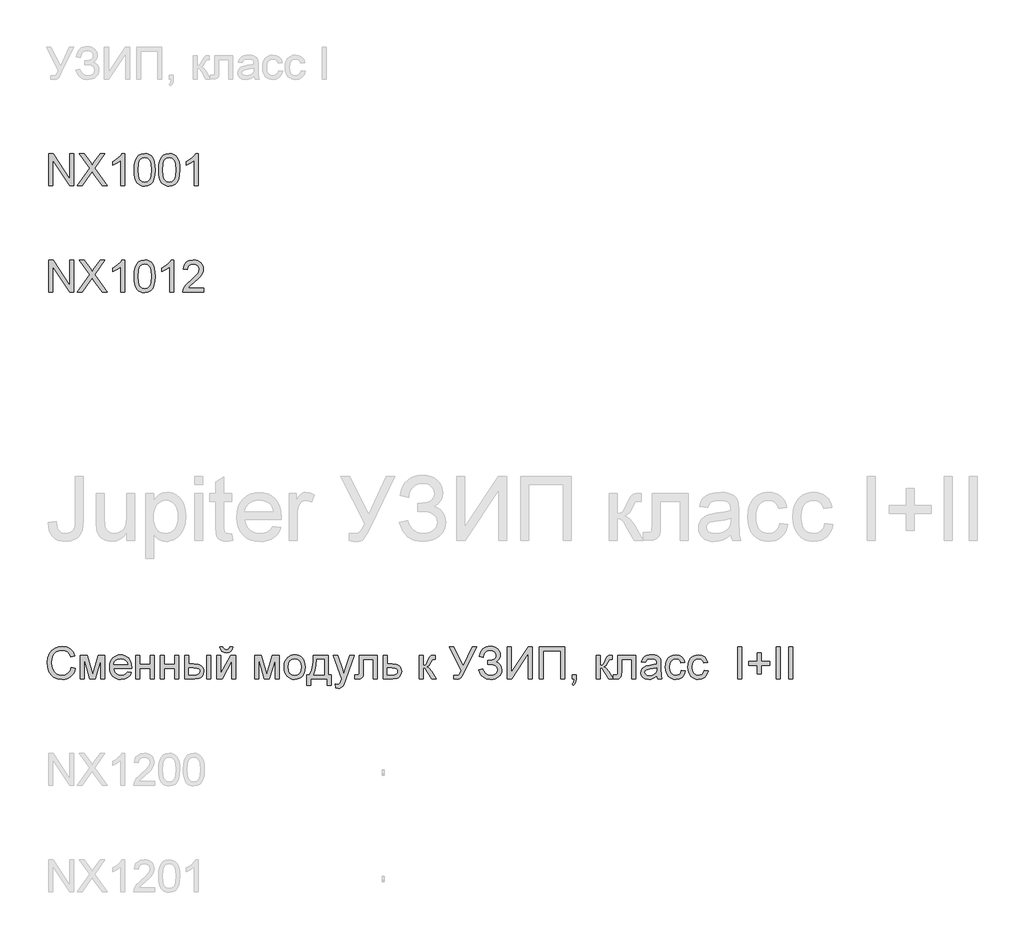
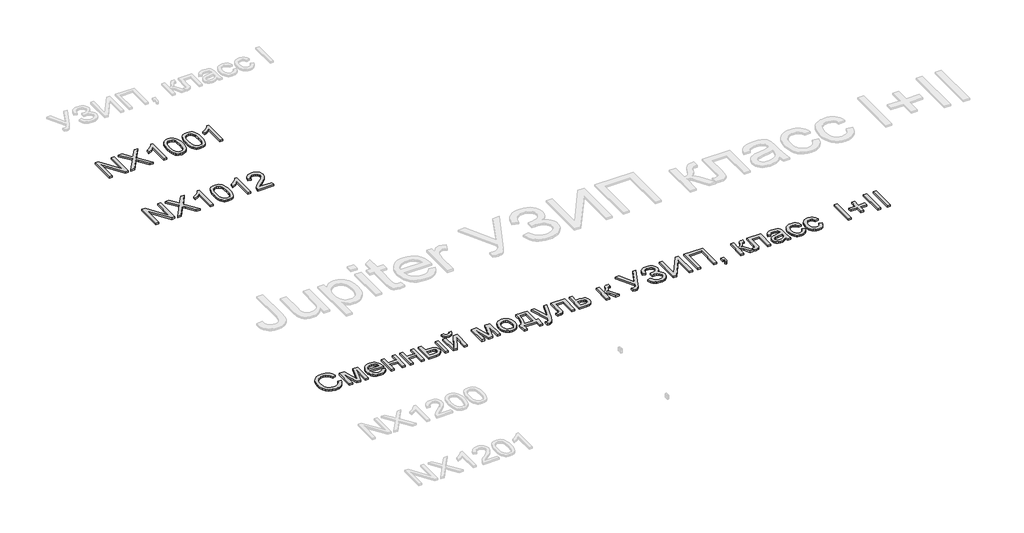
# One storey, part 31 of 124: 3 proxies.
"""IFC4 building model written with IfcOpenShell, lengths in millimetres."""

from ifc_helpers import new_model, si_unit, origin, origin_with_axes, place, context, project, spatial, polyline, outline, extrude, element, save

model = new_model("IFC4")

# Units and contexts
model_context = context("Model", 3, world=origin())
ifc_project = project(units=[si_unit("LENGTHUNIT", "METRE", prefix="MILLI")], contexts=[model_context])

# Site, building, storey
site = spatial("IfcSite", under=ifc_project)
building = spatial("IfcBuilding", under=site)
storey = spatial("IfcBuildingStorey", under=building, Name="Этаж 01", Elevation=0.0)

# Proxies
placement = place(None, origin())
element("IfcBuildingElementProxy", 1, Name="300", ObjectType="300", at=placement, inside=storey, context=model_context, shape_type="SweptSolid", body=[
    extrude(outline(polyline([(49499.8220677, -96548.8731539), (49499.8220677, -96247.5042234), (49540.1419344, -96247.5042234), (49697.5954283, -96486.2596383), (49697.5954283, -96247.5042234), (49735.2665446, -96247.5042234), (49735.2665446, -96548.8731539), (49694.9466779, -96548.8731539), (49537.493184, -96310.0441626), (49537.493184, -96548.8731539), (49499.8220677, -96548.8731539)])), origin_with_axes(), (0.0, 0.0, 1.0), 20.0),
    extrude(outline(polyline([(49768.2287714, -96548.8731539), (49884.4059055, -96384.6506312), (49787.0643295, -96247.5042234), (49832.2402385, -96247.5042234), (49887.0546558, -96324.685866), (49905.522332, -96354.7786132), (49927.1537933, -96324.1708312), (49981.3795994, -96247.5042234), (50027.217696, -96247.5042234), (49929.8761201, -96385.0920896), (50046.0532541, -96548.8731539), (50000.8773451, -96548.8731539), (49923.4749733, -96439.6857777), (49907.361742, -96417.0242468), (49889.6298298, -96441.8930697), (49814.066868, -96548.8731539), (49768.2287714, -96548.8731539)])), origin_with_axes(), (0.0, 0.0, 1.0), 20.0),
    extrude(outline(polyline([(50210.864388, -96548.8731539), (50173.1932717, -96548.8731539), (50173.1932717, -96314.0172882), (50137.5087181, -96339.437934), (50097.8510391, -96358.4574332), (50097.8510391, -96322.846456), (50127.4379485, -96306.7516188), (50153.0701265, -96287.6033609), (50173.2760451, -96267.2410925), (50186.5841763, -96247.5042234), (50210.864388, -96247.5042234), (50210.864388, -96548.8731539)])), origin_with_axes(), (0.0, 0.0, 1.0), 20.0),
    extrude(outline(polyline([(50300.3332892, -96400.6167098), (50303.1016012, -96352.3781832), (50311.4065373, -96313.9069236), (50325.1653239, -96284.6143197), (50344.2951876, -96263.9117604), (50368.9340842, -96251.6061077), (50399.2199695, -96247.5042234), (50422.4333234, -96249.9322446), (50443.2186561, -96257.2163081), (50460.6010804, -96269.0713054), (50473.6057089, -96285.2121279), (50483.4281582, -96305.50082), (50491.2640447, -96329.7994258), (50496.3959985, -96360.6555281), (50498.1066498, -96400.6167098), (50495.3659289, -96448.579325), (50487.1437663, -96486.9586141), (50473.4677532, -96516.2788091), (50454.3654806, -96537.0641418), (50429.6714017, -96549.452568), (50399.2199695, -96553.5820434), (50378.471425, -96551.7886187), (50360.0773252, -96546.4083445), (50344.0376702, -96537.4412209), (50330.35246, -96524.8872478), (50317.2190728, -96502.1935272), (50307.8380819, -96473.9171974), (50302.2094874, -96440.0582582), (50300.3332892, -96400.6167098)]), holes=[polyline([(50338.0044055, -96400.5431334), (50342.4189894, -96459.7997258), (50347.9372194, -96480.0677245), (50355.6627413, -96494.0955248), (50375.3812162, -96510.4570765), (50399.2199695, -96515.9109271), (50423.0587228, -96510.4386824), (50442.7771977, -96494.0219484), (50450.5027196, -96479.9711555), (50456.0209496, -96459.7077553), (50460.4355335, -96400.5431334), (50456.1681024, -96342.6201133), (50450.8338134, -96322.4187932), (50443.3658089, -96308.0575998), (50423.6841222, -96290.8959048), (50398.7785111, -96285.1753397), (50375.1972752, -96290.2153231), (50356.2513525, -96305.3352731), (50348.2683132, -96320.9702579), (50342.5661422, -96342.0498962), (50338.0044055, -96400.5431334)])]), origin_with_axes(), (0.0, 0.0, 1.0), 20.0),
    extrude(outline(polyline([(50531.0688766, -96400.6167098), (50533.8371886, -96352.3781832), (50542.1421246, -96313.9069236), (50555.9009112, -96284.6143197), (50575.030775, -96263.9117604), (50599.6696716, -96251.6061077), (50629.9555569, -96247.5042234), (50653.1689108, -96249.9322446), (50673.9542435, -96257.2163081), (50691.3366678, -96269.0713054), (50704.3412963, -96285.2121279), (50714.1637456, -96305.50082), (50721.9996321, -96329.7994258), (50727.1315859, -96360.6555281), (50728.8422372, -96400.6167098), (50726.1015163, -96448.579325), (50717.8793537, -96486.9586141), (50704.2033406, -96516.2788091), (50685.101068, -96537.0641418), (50660.406989, -96549.452568), (50629.9555569, -96553.5820434), (50609.2070123, -96551.7886187), (50590.8129126, -96546.4083445), (50574.7732576, -96537.4412209), (50561.0880474, -96524.8872478), (50547.9546602, -96502.1935272), (50538.5736693, -96473.9171974), (50532.9450747, -96440.0582582), (50531.0688766, -96400.6167098)]), holes=[polyline([(50568.7399929, -96400.5431334), (50573.1545768, -96459.7997258), (50578.6728067, -96480.0677245), (50586.3983286, -96494.0955248), (50606.1168036, -96510.4570765), (50629.9555569, -96515.9109271), (50653.7943102, -96510.4386824), (50673.5127851, -96494.0219484), (50681.238307, -96479.9711555), (50686.7565369, -96459.7077553), (50691.1711209, -96400.5431334), (50686.9036897, -96342.6201133), (50681.5694008, -96322.4187932), (50674.1013963, -96308.0575998), (50654.4197096, -96290.8959048), (50629.5140985, -96285.1753397), (50605.9328626, -96290.2153231), (50586.9869398, -96305.3352731), (50579.0039005, -96320.9702579), (50573.3017296, -96342.0498962), (50568.7399929, -96400.5431334)])]), origin_with_axes(), (0.0, 0.0, 1.0), 20.0),
    extrude(outline(polyline([(50903.0711501, -96548.8731539), (50865.4000338, -96548.8731539), (50865.4000338, -96314.0172882), (50829.7154803, -96339.437934), (50790.0578012, -96358.4574332), (50790.0578012, -96322.846456), (50819.6447106, -96306.7516188), (50845.2768887, -96287.6033609), (50865.4828072, -96267.2410925), (50878.7909384, -96247.5042234), (50903.0711501, -96247.5042234), (50903.0711501, -96548.8731539)])), origin_with_axes(), (0.0, 0.0, 1.0), 20.0),
])
element("IfcBuildingElementProxy", 2, Name="300", ObjectType="300", at=placement, inside=storey, context=model_context, shape_type="SweptSolid", body=[
    extrude(outline(polyline([(49499.8220677, -97548.8731539), (49499.8220677, -97247.5042234), (49540.1419344, -97247.5042234), (49697.5954283, -97486.2596383), (49697.5954283, -97247.5042234), (49735.2665446, -97247.5042234), (49735.2665446, -97548.8731539), (49694.9466779, -97548.8731539), (49537.493184, -97310.0441626), (49537.493184, -97548.8731539), (49499.8220677, -97548.8731539)])), origin_with_axes(), (0.0, 0.0, 1.0), 20.0),
    extrude(outline(polyline([(49768.2287714, -97548.8731539), (49884.4059055, -97384.6506312), (49787.0643295, -97247.5042234), (49832.2402385, -97247.5042234), (49887.0546558, -97324.685866), (49905.522332, -97354.7786132), (49927.1537933, -97324.1708312), (49981.3795994, -97247.5042234), (50027.217696, -97247.5042234), (49929.8761201, -97385.0920896), (50046.0532541, -97548.8731539), (50000.8773451, -97548.8731539), (49923.4749733, -97439.6857777), (49907.361742, -97417.0242468), (49889.6298298, -97441.8930697), (49814.066868, -97548.8731539), (49768.2287714, -97548.8731539)])), origin_with_axes(), (0.0, 0.0, 1.0), 20.0),
    extrude(outline(polyline([(50210.864388, -97548.8731539), (50173.1932717, -97548.8731539), (50173.1932717, -97314.0172882), (50137.5087181, -97339.437934), (50097.8510391, -97358.4574332), (50097.8510391, -97322.846456), (50127.4379485, -97306.7516188), (50153.0701265, -97287.6033609), (50173.2760451, -97267.2410925), (50186.5841763, -97247.5042234), (50210.864388, -97247.5042234), (50210.864388, -97548.8731539)])), origin_with_axes(), (0.0, 0.0, 1.0), 20.0),
    extrude(outline(polyline([(50300.3332892, -97400.6167098), (50303.1016012, -97352.3781832), (50311.4065373, -97313.9069236), (50325.1653239, -97284.6143197), (50344.2951876, -97263.9117604), (50368.9340842, -97251.6061077), (50399.2199695, -97247.5042234), (50422.4333234, -97249.9322446), (50443.2186561, -97257.2163081), (50460.6010804, -97269.0713054), (50473.6057089, -97285.2121279), (50483.4281582, -97305.50082), (50491.2640447, -97329.7994258), (50496.3959985, -97360.6555281), (50498.1066498, -97400.6167098), (50495.3659289, -97448.579325), (50487.1437663, -97486.9586141), (50473.4677532, -97516.2788091), (50454.3654806, -97537.0641418), (50429.6714017, -97549.452568), (50399.2199695, -97553.5820434), (50378.471425, -97551.7886187), (50360.0773252, -97546.4083445), (50344.0376702, -97537.4412209), (50330.35246, -97524.8872478), (50317.2190728, -97502.1935272), (50307.8380819, -97473.9171974), (50302.2094874, -97440.0582582), (50300.3332892, -97400.6167098)]), holes=[polyline([(50338.0044055, -97400.5431334), (50342.4189894, -97459.7997258), (50347.9372194, -97480.0677245), (50355.6627413, -97494.0955248), (50375.3812162, -97510.4570765), (50399.2199695, -97515.9109271), (50423.0587228, -97510.4386824), (50442.7771977, -97494.0219484), (50450.5027196, -97479.9711555), (50456.0209496, -97459.7077553), (50460.4355335, -97400.5431334), (50456.1681024, -97342.6201133), (50450.8338134, -97322.4187932), (50443.3658089, -97308.0575998), (50423.6841222, -97290.8959048), (50398.7785111, -97285.1753397), (50375.1972752, -97290.2153231), (50356.2513525, -97305.3352731), (50348.2683132, -97320.9702579), (50342.5661422, -97342.0498962), (50338.0044055, -97400.5431334)])]), origin_with_axes(), (0.0, 0.0, 1.0), 20.0),
    extrude(outline(polyline([(50672.3355627, -97548.8731539), (50634.6644464, -97548.8731539), (50634.6644464, -97314.0172882), (50598.9798929, -97339.437934), (50559.3222138, -97358.4574332), (50559.3222138, -97322.846456), (50588.9091233, -97306.7516188), (50614.5413013, -97287.6033609), (50634.7472199, -97267.2410925), (50648.055351, -97247.5042234), (50672.3355627, -97247.5042234), (50672.3355627, -97548.8731539)])), origin_with_axes(), (0.0, 0.0, 1.0), 20.0),
    extrude(outline(polyline([(50954.868935, -97511.2020376), (50954.868935, -97548.8731539), (50757.0955744, -97548.8731539), (50761.1422764, -97522.900685), (50770.4312967, -97502.6027959), (50784.0245365, -97482.9119122), (50803.6878291, -97462.3013234), (50831.1870082, -97439.2443193), (50871.8379687, -97403.1367015), (50896.228545, -97376.4836509), (50908.4238331, -97354.8521896), (50912.4889292, -97333.8093395), (50908.6537594, -97314.9461902), (50897.14825, -97299.2652202), (50879.4623231, -97288.6978098), (50857.0859007, -97285.1753397), (50833.5874383, -97288.6150364), (50815.3312942, -97298.9341264), (50803.5498734, -97315.3232692), (50799.4755803, -97336.9731247), (50761.8044639, -97332.2642351), (50770.9371345, -97295.8255235), (50779.4834931, -97281.2895862), (50790.6832006, -97269.2092612), (50804.2787396, -97259.7133072), (50820.0125926, -97252.9304829), (50857.8952411, -97247.5042234), (50878.0850648, -97249.0125396), (50896.053801, -97253.5374882), (50911.8014497, -97261.0790691), (50925.3280108, -97271.6372823), (50936.192026, -97284.4303787), (50943.9520368, -97298.676609), (50948.6080433, -97314.3759731), (50950.1600455, -97331.5284711), (50948.4861824, -97349.5454918), (50943.4645932, -97367.2498129), (50934.5526518, -97385.2576365), (50921.2077325, -97404.1851652), (50899.9349561, -97426.7823167), (50867.2394438, -97455.7990091), (50823.9029447, -97492.0353856), (50806.9067966, -97511.2020376), (50954.868935, -97511.2020376)])), origin_with_axes(), (0.0, 0.0, 1.0), 20.0),
])
element("IfcBuildingElementProxy", 3, Name="300", ObjectType="300", at=placement, inside=storey, context=model_context, shape_type="SweptSolid", body=[
    extrude(outline(polyline([(49711.7220969, -101074.3218375), (49749.3932132, -101084.0339221), (49741.9390043, -101107.4611074), (49732.0107889, -101127.9314412), (49719.6085672, -101145.4449234), (49704.732339, -101160.0015541), (49687.7177967, -101171.4449834), (49668.9006327, -101179.6188615), (49648.2808468, -101184.5231884), (49625.8584392, -101186.157964), (49582.1632553, -101181.2099512), (49547.4627861, -101166.3659127), (49520.8649178, -101142.1408833), (49501.4775367, -101109.0498978), (49489.6409335, -101070.1463768), (49485.6953991, -101028.4837409), (49490.1559683, -100984.5402365), (49503.5376758, -100946.5932087), (49525.141546, -100915.847471), (49554.268603, -100893.5078368), (49588.8127223, -100879.9054001), (49626.6677796, -100875.3712545), (49667.9717306, -100881.2389723), (49685.9404668, -100888.5736196), (49702.1203768, -100898.8421258), (49716.2447462, -100911.7731779), (49728.0468605, -100927.095463), (49744.6843237, -100964.9137321), (49707.0132074, -100973.8900528), (49693.9533965, -100946.4184648), (49676.1111198, -100927.5737096), (49653.2656479, -100916.6752055), (49625.1962516, -100913.0423708), (49592.8410302, -100917.0706786), (49566.261556, -100929.1556022), (49546.0924256, -100948.0279485), (49532.9682355, -100972.4185248), (49525.7669454, -100999.9912803), (49523.3665154, -101028.4101645), (49526.2084038, -101063.2118012), (49534.734069, -101093.3045484), (49549.2654078, -101117.5387748), (49570.124317, -101134.7648493), (49595.1310956, -101145.0563481), (49622.1060429, -101148.4868477), (49653.5507564, -101143.8147463), (49679.7531515, -101129.7984423), (49699.5360058, -101106.5850884), (49711.7220969, -101074.3218375)])), origin_with_axes(), (0.0, 0.0, 1.0), 20.0),
    extrude(outline(polyline([(49796.4821086, -100960.1312662), (49861.3029162, -100960.1312662), (49911.2612911, -101137.303235), (49965.1192152, -100960.1312662), (50027.217696, -100960.1312662), (50027.217696, -101181.4490745), (49989.5465797, -101181.4490745), (49989.5465797, -101003.247036), (49935.39435, -101181.4490745), (49885.9510098, -101181.4490745), (49834.1532249, -100994.7121737), (49834.1532249, -101181.4490745), (49796.4821086, -101181.4490745), (49796.4821086, -100960.1312662)])), origin_with_axes(), (0.0, 0.0, 1.0), 20.0),
    extrude(outline(polyline([(50238.6762668, -101115.5246209), (50275.6116191, -101120.2335105), (50262.3034879, -101148.0637834), (50241.0674998, -101168.8675102), (50212.3819012, -101181.8353505), (50176.7249388, -101186.157964), (50153.3506366, -101184.2932621), (50132.5239171, -101178.6991565), (50114.2447805, -101169.3756472), (50098.5132266, -101156.3227342), (50085.8626845, -101139.9037009), (50076.826583, -101120.4818308), (50071.4049221, -101098.0571239), (50069.5977018, -101072.6295803), (50071.4233162, -101046.3398132), (50076.9001594, -101023.167846), (50086.0282314, -101003.1136788), (50098.8075322, -100986.1773114), (50114.4976993, -100972.7220274), (50132.3583702, -100963.1111103), (50152.3895448, -100957.34456), (50174.5912232, -100955.4223766), (50196.077831, -100957.3399615), (50215.5088982, -100963.0927162), (50232.8844246, -100972.6806407), (50248.2044105, -100986.103735), (50260.7100991, -101003.0033142), (50269.6427338, -101023.0206932), (50275.0023146, -101046.1558722), (50276.7888415, -101072.4088511), (50276.5681123, -101082.5623942), (50107.2688181, -101082.5623942), (50113.7895265, -101110.7605491), (50128.9370676, -101131.4906995), (50150.7984552, -101144.2378106), (50177.4607028, -101148.4868477), (50197.5102715, -101146.518679), (50214.3960551, -101140.614173), (50228.1180535, -101130.4054476), (50238.6762668, -101115.5246209)]), holes=[polyline([(50107.2688181, -101044.8912778), (50239.1177252, -101044.8912778), (50234.0225596, -101024.9888619), (50224.0345634, -101010.7518287), (50202.0720083, -100997.5080769), (50174.4440704, -100993.0934929), (50149.0510157, -100996.615963), (50128.0541509, -101007.1833733), (50113.4584327, -101023.6552897), (50107.2688181, -101044.8912778)])]), origin_with_axes(), (0.0, 0.0, 1.0), 20.0),
    extrude(outline(polyline([(50314.4599578, -100960.1312662), (50352.1310741, -100960.1312662), (50352.1310741, -101044.8912778), (50451.0177544, -101044.8912778), (50451.0177544, -100960.1312662), (50488.6888707, -100960.1312662), (50488.6888707, -101181.4490745), (50451.0177544, -101181.4490745), (50451.0177544, -101082.5623942), (50352.1310741, -101082.5623942), (50352.1310741, -101181.4490745), (50314.4599578, -101181.4490745), (50314.4599578, -100960.1312662)])), origin_with_axes(), (0.0, 0.0, 1.0), 20.0),
    extrude(outline(polyline([(50545.1955452, -100960.1312662), (50582.8666615, -100960.1312662), (50582.8666615, -101044.8912778), (50681.7533418, -101044.8912778), (50681.7533418, -100960.1312662), (50719.4244581, -100960.1312662), (50719.4244581, -101181.4490745), (50681.7533418, -101181.4490745), (50681.7533418, -101082.5623942), (50582.8666615, -101082.5623942), (50582.8666615, -101181.4490745), (50545.1955452, -101181.4490745), (50545.1955452, -100960.1312662)])), origin_with_axes(), (0.0, 0.0, 1.0), 20.0),
    extrude(outline(polyline([(50983.1222722, -100960.1312662), (51020.7933886, -100960.1312662), (51020.7933886, -101181.4490745), (50983.1222722, -101181.4490745), (50983.1222722, -100960.1312662)])), origin_with_axes(), (0.0, 0.0, 1.0), 20.0),
    extrude(outline(polyline([(50775.9311326, -100960.1312662), (50813.6022489, -100960.1312662), (50813.6022489, -101040.1823883), (50860.1761095, -101040.1823883), (50900.4315968, -101044.9004749), (50916.648295, -101050.7980831), (50930.2576295, -101059.0547347), (50941.0250757, -101069.3853209), (50948.7161086, -101081.5047334), (50953.3307284, -101095.4129721), (50954.868935, -101111.110037), (50949.70939, -101138.0665902), (50934.2307551, -101160.8108945), (50922.36886, -101169.8400982), (50907.4213547, -101176.2895295), (50868.2695134, -101181.4490745), (50775.9311326, -101181.4490745), (50775.9311326, -100960.1312662)]), holes=[polyline([(50813.6022489, -101143.7779581), (50852.3034348, -101143.7779581), (50882.3042115, -101141.8005924), (50902.2618097, -101135.8684953), (50913.4638165, -101125.7425433), (50917.1978187, -101111.1836134), (50914.4295067, -101098.8779606), (50906.1245707, -101088.0070477), (50888.3650673, -101080.3918904), (50857.2330535, -101077.8535046), (50813.6022489, -101077.8535046), (50813.6022489, -101143.7779581)])]), origin_with_axes(), (0.0, 0.0, 1.0), 20.0),
    extrude(outline(polyline([(51077.300063, -100960.1312662), (51114.9711793, -100960.1312662), (51114.9711793, -101128.9155255), (51207.5302893, -100960.1312662), (51256.2378655, -100960.1312662), (51256.2378655, -101181.4490745), (51218.5667492, -101181.4490745), (51218.5667492, -101013.6948847), (51126.5962504, -101181.4490745), (51077.300063, -101181.4490745), (51077.300063, -100960.1312662)])), origin_with_axes(), (0.0, 0.0, 1.0), 20.0),
    extrude(outline(polyline([(51199.731191, -100880.080144), (51227.9845282, -100880.080144), (51221.9052783, -100904.2040058), (51209.7007931, -100921.9819033), (51191.9228957, -100932.9355897), (51169.123409, -100936.5868185), (51144.3833448, -100932.9631808), (51125.1982988, -100922.0922679), (51112.0833057, -100904.3419616), (51105.5534002, -100880.080144), (51133.8067375, -100880.080144), (51137.779863, -100892.4869643), (51144.4017389, -100901.3069351), (51153.7091534, -100906.5768447), (51165.7388947, -100908.3334812), (51179.3137403, -100906.632027), (51189.1361895, -100901.5276643), (51195.7580655, -100892.7628758), (51199.731191, -100880.080144)])), origin_with_axes(), (0.0, 0.0, 1.0), 20.0),
    extrude(outline(polyline([(51430.4667784, -100960.1312662), (51495.2875859, -100960.1312662), (51545.2459609, -101137.303235), (51599.103885, -100960.1312662), (51661.2023658, -100960.1312662), (51661.2023658, -101181.4490745), (51623.5312495, -101181.4490745), (51623.5312495, -101003.247036), (51569.3790198, -101181.4490745), (51519.9356796, -101181.4490745), (51468.1378947, -100994.7121737), (51468.1378947, -101181.4490745), (51430.4667784, -101181.4490745), (51430.4667784, -100960.1312662)])), origin_with_axes(), (0.0, 0.0, 1.0), 20.0),
    extrude(outline(polyline([(51708.2912611, -101070.7901703), (51710.3284077, -101042.1275644), (51716.4398473, -101017.4288869), (51726.6255801, -100996.694138), (51740.8856059, -100979.9233175), (51755.2422008, -100969.2041559), (51771.0887177, -100961.5476118), (51788.4251567, -100956.9536854), (51807.2515178, -100955.4223766), (51828.0345513, -100957.2870785), (51846.8264235, -100962.8811841), (51863.6271343, -100972.2046934), (51878.4366839, -100985.2576064), (51890.5239067, -101001.5984648), (51899.1576373, -101020.7858101), (51904.3378756, -101042.8196424), (51906.0646217, -101067.6999615), (51903.0112012, -101105.7573539), (51893.8509395, -101134.7280611), (51878.8505512, -101156.4239017), (51858.2767506, -101172.6566948), (51833.840189, -101182.7826467), (51807.2515178, -101186.157964), (51786.1649817, -101184.3001599), (51767.1983656, -101178.7267477), (51750.3516695, -101169.4377273), (51735.6248934, -101156.4330988), (51723.6664293, -101139.9335913), (51715.1246692, -101120.1599341), (51709.9996132, -101097.1121271), (51708.2912611, -101070.7901703)]), holes=[polyline([(51745.9623774, -101070.7165939), (51750.3217791, -101104.8100578), (51763.399984, -101129.0994665), (51783.0816708, -101143.6400024), (51807.2515178, -101148.4868477), (51831.3110003, -101143.6124112), (51850.9558989, -101128.9891019), (51864.0341038, -101104.3777965), (51868.3935054, -101069.5393715), (51864.0065126, -101036.439189), (51850.8455343, -101012.4808741), (51831.1730446, -100997.9403382), (51807.2515178, -100993.0934929), (51783.0816708, -100997.9219441), (51763.399984, -101012.4072977), (51750.3217791, -101036.6415241), (51745.9623774, -101070.7165939)])]), origin_with_axes(), (0.0, 0.0, 1.0), 20.0),
    extrude(outline(polyline([(51981.4068544, -100960.1312662), (52122.6735405, -100960.1312662), (52122.6735405, -101143.7779581), (52150.9268777, -101143.7779581), (52150.9268777, -101242.6646385), (52113.2557614, -101242.6646385), (52113.2557614, -101181.4490745), (51957.8624067, -101181.4490745), (51957.8624067, -101242.6646385), (51920.1912904, -101242.6646385), (51920.1912904, -101143.7779581), (51943.7357381, -101143.7779581), (51960.8514479, -101112.8482794), (51972.8352039, -101071.9306045), (51979.687006, -101021.0249334), (51981.4068544, -100960.1312662)]), holes=[polyline([(52014.3690811, -100997.8023825), (52011.2788724, -101043.9255876), (52005.5399132, -101083.6292519), (51997.1522038, -101116.9133754), (51986.1157439, -101143.7779581), (52085.0024242, -101143.7779581), (52085.0024242, -100997.8023825), (52014.3690811, -100997.8023825)])]), origin_with_axes(), (0.0, 0.0, 1.0), 20.0),
    extrude(outline(polyline([(52193.3068836, -101266.2090861), (52188.597994, -101229.9359214), (52207.7278578, -101233.2468594), (52225.6069228, -101229.0897928), (52236.5698062, -101217.50151), (52246.8705021, -101189.7632075), (52249.813558, -101180.6397341), (52169.7624359, -100960.1312662), (52209.4936914, -100960.1312662), (52251.9472736, -101083.0038525), (52266.7361298, -101132.1528871), (52281.524986, -101088.7428117), (52325.1557907, -100960.1312662), (52364.5927405, -100960.1312662), (52287.5582507, -101186.7465752), (52267.5454702, -101235.8956097), (52257.2999566, -101251.5857768), (52245.6932797, -101262.4566898), (52232.2104046, -101268.8026542), (52216.3362965, -101270.9179757), (52193.3068836, -101266.2090861)])), origin_with_axes(), (0.0, 0.0, 1.0), 20.0),
    extrude(outline(polyline([(52414.6246919, -100960.1312662), (52584.1447153, -100960.1312662), (52584.1447153, -101181.2283453), (52546.4735989, -101181.2283453), (52546.4735989, -100997.8023825), (52452.2958082, -100997.8023825), (52452.2958082, -101103.3845151), (52449.7574224, -101152.0920912), (52445.0025476, -101163.119354), (52435.8146948, -101172.6566948), (52421.8719672, -101179.2509795), (52402.852468, -101181.4490745), (52372.244686, -101179.5360881), (52372.244686, -101143.7779581), (52389.0936814, -101143.7779581), (52406.1266178, -101141.4603016), (52412.9324347, -101134.1026617), (52414.6246919, -101101.2507995), (52414.6246919, -100960.1312662)])), origin_with_axes(), (0.0, 0.0, 1.0), 20.0),
    extrude(outline(polyline([(52640.6513897, -100960.1312662), (52678.322506, -100960.1312662), (52678.322506, -101040.1823883), (52721.7325815, -101040.1823883), (52759.3669096, -101044.9004749), (52774.5144507, -101050.7980831), (52787.2155766, -101059.0547347), (52797.2587551, -101069.3853209), (52804.432454, -101081.5047334), (52810.1714131, -101111.110037), (52805.2877796, -101138.0665902), (52790.6368791, -101160.8108945), (52779.404982, -101169.8400982), (52765.2438244, -101176.2895295), (52728.1337282, -101181.4490745), (52640.6513897, -101181.4490745), (52640.6513897, -100960.1312662)]), holes=[polyline([(52678.322506, -101143.7779581), (52713.4920248, -101143.7779581), (52740.7796718, -101141.8005924), (52758.9254512, -101135.8684953), (52769.1065854, -101125.7425433), (52772.5002968, -101111.1836134), (52769.9895022, -101098.8779606), (52762.4571183, -101088.0070477), (52746.3162958, -101080.3918904), (52717.9801851, -101077.8535046), (52678.322506, -101077.8535046), (52678.322506, -101143.7779581)])]), origin_with_axes(), (0.0, 0.0, 1.0), 20.0),
    extrude(outline(polyline([(52974.9825469, -100960.1312662), (53012.6536632, -100960.1312662), (53012.6536632, -101054.3090569), (53027.9759483, -101052.6167997), (53037.8903681, -101047.5400282), (53046.6643537, -101034.2962764), (53058.5653362, -101008.1030783), (53075.7454254, -100974.0739938), (53090.9021636, -100963.0007457), (53118.4565251, -100960.1312662), (53125.6670122, -100960.1312662), (53125.6670122, -100998.0231117), (53115.5134691, -100997.8023825), (53097.1193693, -101001.775508), (53084.1699231, -101026.5707545), (53068.9763967, -101053.3893519), (53047.6760292, -101066.5227392), (53059.6137999, -101071.8248384), (53071.4412061, -101081.1828367), (53094.7649246, -101112.0665302), (53135.0847912, -101181.4490745), (53092.263327, -101181.4490745), (53052.7528007, -101113.5380581), (53032.887173, -101084.8064743), (53023.5981526, -101079.591747), (53012.6536632, -101077.8535046), (53012.6536632, -101181.4490745), (52974.9825469, -101181.4490745), (52974.9825469, -100960.1312662)])), origin_with_axes(), (0.0, 0.0, 1.0), 20.0),
    extrude(outline(polyline([(53259.870364, -100880.080144), (53301.5881822, -100880.080144), (53391.7192711, -101058.5764881), (53472.8004628, -100880.080144), (53514.1503991, -100880.080144), (53399.7390986, -101114.8624333), (53382.4670389, -101151.319539), (53368.6162818, -101172.5463302), (53353.8458197, -101182.7550555), (53333.814645, -101186.157964), (53299.8959251, -101181.4490745), (53299.8959251, -101148.4868477), (53329.5472139, -101148.4868477), (53341.4114082, -101146.3899203), (53351.5465572, -101140.0991382), (53361.277036, -101126.3587457), (53371.9272197, -101101.9129871), (53259.870364, -100880.080144)])), origin_with_axes(), (0.0, 0.0, 1.0), 20.0),
    extrude(outline(polyline([(53535.340402, -101096.6890628), (53573.0115183, -101087.2712837), (53580.9669664, -101107.6611433), (53596.1512958, -101128.069397), (53618.0126834, -101143.382485), (53645.9993061, -101148.4868477), (53674.3538109, -101144.6516779), (53695.9944693, -101133.1461685), (53709.7072706, -101116.2143997), (53714.2782044, -101096.1004516), (53709.2842064, -101075.0300103), (53694.3022121, -101058.7604291), (53670.7117792, -101048.3585656), (53639.892465, -101044.8912778), (53620.1004137, -101044.8912778), (53620.1004137, -101007.2201615), (53662.7379369, -101004.166741), (53676.6346793, -100998.7404815), (53688.8207704, -100988.5685444), (53697.3188445, -100975.1684427), (53700.1515358, -100960.0576898), (53696.3807454, -100942.3165805), (53685.068374, -100927.0586748), (53667.3180678, -100916.5464468), (53644.2334726, -100913.0423708), (53623.3653664, -100915.7371064), (53605.7898041, -100923.8213132), (53592.325323, -100936.3568922), (53583.7904607, -100952.4057443), (53577.7204078, -100978.9668243), (53540.0492915, -100969.5490452), (53551.7525375, -100928.3462618), (53561.1668677, -100912.159454), (53572.956336, -100898.9157022), (53587.1209424, -100888.6150063), (53603.660687, -100881.2573664), (53622.5755697, -100876.8427824), (53643.8655906, -100875.3712545), (53664.3773111, -100876.900264), (53682.6495499, -100881.4872926), (53698.6823071, -100889.1323403), (53712.4755827, -100899.8354071), (53723.5649256, -100912.5848175), (53731.4858848, -100926.368896), (53736.2384603, -100941.1876427), (53737.8226521, -100957.0410574), (53735.3578428, -100976.8652984), (53727.9634147, -100994.3258976), (53715.6393678, -101009.422855), (53698.3857022, -101022.1561705), (53719.3365819, -101031.8038759), (53736.5718533, -101048.0918512), (53748.1049539, -101069.622145), (53751.9493207, -101094.9968056), (53750.1053122, -101113.6277294), (53744.5732867, -101130.6721621), (53735.3532442, -101146.1301037), (53722.4451847, -101160.0015541), (53706.4929017, -101171.4449834), (53688.1401887, -101179.6188615), (53667.3870456, -101184.5231884), (53644.2334726, -101186.157964), (53606.0289274, -101180.5661577), (53589.6719741, -101173.5763998), (53575.1452339, -101163.7907387), (53562.4487065, -101151.2091745), (53551.5823921, -101135.8317071), (53535.340402, -101096.6890628)])), origin_with_axes(), (0.0, 0.0, 1.0), 20.0),
    extrude(outline(polyline([(53803.7471057, -100880.080144), (53841.418222, -100880.080144), (53841.418222, -101118.7619825), (53999.1660215, -100880.080144), (54039.1915826, -100880.080144), (54039.1915826, -101181.4490745), (54001.5204663, -101181.4490745), (54001.5204663, -100943.4294236), (53844.1405487, -101181.4490745), (53803.7471057, -101181.4490745), (53803.7471057, -100880.080144)])), origin_with_axes(), (0.0, 0.0, 1.0), 20.0),
    extrude(outline(polyline([(54105.1160361, -100880.080144), (54340.560513, -100880.080144), (54340.560513, -101181.4490745), (54302.8893967, -101181.4490745), (54302.8893967, -100917.7512603), (54142.7871524, -100917.7512603), (54142.7871524, -101181.4490745), (54105.1160361, -101181.4490745), (54105.1160361, -100880.080144)])), origin_with_axes(), (0.0, 0.0, 1.0), 20.0),
    extrude(outline(polyline([(54411.1938561, -101181.4490745), (54411.1938561, -101143.7779581), (54448.8649724, -101143.7779581), (54448.8649724, -101181.4490745), (54447.1727152, -101202.9977623), (54442.0959437, -101219.9663193), (54433.3403522, -101232.9801449), (54420.6116352, -101242.6646385), (54411.1938561, -101228.5379698), (54419.3608364, -101221.7137588), (54425.0262191, -101212.2775856), (54429.9558379, -101181.4490745), (54411.1938561, -101181.4490745)])), origin_with_axes(), (0.0, 0.0, 1.0), 20.0),
    extrude(outline(polyline([(54839.7028041, -100960.1312662), (55009.2228275, -100960.1312662), (55009.2228275, -101181.2283453), (54971.5517112, -101181.2283453), (54971.5517112, -100997.8023825), (54877.3739204, -100997.8023825), (54877.3739204, -101103.3845151), (54874.8355346, -101152.0920912), (54870.0806598, -101163.119354), (54860.892807, -101172.6566948), (54846.9500794, -101179.2509795), (54827.9305802, -101181.4490745), (54797.3227982, -101179.5360881), (54797.3227982, -101143.7779581), (54814.1717936, -101143.7779581), (54831.20473, -101141.4603016), (54838.0105469, -101134.1026617), (54839.7028041, -101101.2507995), (54839.7028041, -100960.1312662)])), origin_with_axes(), (0.0, 0.0, 1.0), 20.0),
    extrude(outline(polyline([(54637.2205539, -100960.1312662), (54674.8916702, -100960.1312662), (54674.8916702, -101054.3090569), (54690.2139553, -101052.6167997), (54700.1283751, -101047.5400282), (54708.9023607, -101034.2962764), (54720.8033432, -101008.1030783), (54737.9834324, -100974.0739938), (54753.1401706, -100963.0007457), (54780.6945321, -100960.1312662), (54787.9050192, -100960.1312662), (54787.9050192, -100998.0231117), (54777.7514761, -100997.8023825), (54759.3573763, -101001.775508), (54746.4079301, -101026.5707545), (54731.2144037, -101053.3893519), (54709.9140362, -101066.5227392), (54721.8518069, -101071.8248384), (54733.6792131, -101081.1828367), (54757.0029316, -101112.0665302), (54797.3227982, -101181.4490745), (54754.501334, -101181.4490745), (54714.9908077, -101113.5380581), (54695.12518, -101084.8064743), (54685.8361596, -101079.591747), (54674.8916702, -101077.8535046), (54674.8916702, -101181.4490745), (54637.2205539, -101181.4490745), (54637.2205539, -100960.1312662)])), origin_with_axes(), (0.0, 0.0, 1.0), 20.0),
    extrude(outline(polyline([(55206.9961881, -101153.1957372), (55188.9975615, -101168.6283869), (55170.4655059, -101178.7267477), (55150.9769573, -101184.3001599), (55130.1088511, -101186.157964), (55098.6273493, -101181.6881978), (55075.4047984, -101168.278899), (55061.0849917, -101147.9166306), (55056.3117228, -101122.5879552), (55058.1143446, -101106.9713645), (55063.5222099, -101092.7895136), (55071.8639342, -101080.6494078), (55082.4681327, -101071.1580523), (55108.8452718, -101058.7972173), (55141.4396165, -101053.1318345), (55179.9568614, -101047.1721462), (55206.7754589, -101040.1823883), (55206.9961881, -101031.7946788), (55204.40262, -101014.9824716), (55196.6219158, -101003.9828), (55179.2210974, -100995.8158197), (55154.977674, -100993.0934929), (55132.5368722, -100994.9053117), (55116.8650993, -101000.3407682), (55106.1781273, -101010.3931437), (55098.6917287, -101026.0557197), (55061.0206124, -101021.3468302), (55067.5597148, -101000.7454384), (55077.3177848, -100984.5586306), (55091.2053301, -100972.1794015), (55110.1328587, -100963.0007457), (55133.2818333, -100957.3169689), (55159.8337163, -100955.4223766), (55185.3003474, -100957.0962397), (55205.4878719, -100962.1178289), (55220.7089894, -100969.6686069), (55231.2763998, -100978.9300361), (55238.2845518, -100990.3803632), (55242.8278944, -101004.4978348), (55244.6673044, -101037.4600615), (55244.6673044, -101084.3282277), (55246.5802907, -101149.7744347), (55254.0850835, -101181.4490745), (55216.4139671, -101181.4490745), (55206.9961881, -101153.1957372)]), holes=[polyline([(55206.9961881, -101077.8535046), (55146.2220825, -101089.4049993), (55113.8116787, -101095.5118404), (55099.1331871, -101105.4446543), (55093.9828392, -101119.9392049), (55096.7879394, -101131.1412116), (55105.20324, -101140.3198674), (55119.0448001, -101146.4451026), (55138.1286786, -101148.4868477), (55158.3621883, -101146.2335705), (55176.2412533, -101139.4737388), (55190.7358039, -101129.5133338), (55200.8157705, -101117.6583365), (55205.2855368, -101105.4446543), (55206.7754589, -101088.5220825), (55206.9961881, -101077.8535046)])]), origin_with_axes(), (0.0, 0.0, 1.0), 20.0),
    extrude(outline(polyline([(55437.7317754, -101101.3979523), (55475.4028917, -101106.1068418), (55464.8998608, -101139.6116946), (55445.1629917, -101164.9311729), (55418.0500887, -101180.8512662), (55385.4189557, -101186.157964), (55364.2910329, -101184.3070577), (55345.3474094, -101178.7543388), (55328.5880853, -101169.4998074), (55314.0130605, -101156.5434634), (55302.2155447, -101140.1290286), (55293.7887478, -101120.5002249), (55288.7326696, -101097.6570523), (55287.0473102, -101071.5995107), (55289.9259868, -101038.0762639), (55298.5620167, -101009.0227833), (55313.0933555, -100985.5611091), (55333.657959, -100968.8132812), (55358.2600674, -100958.7701028), (55384.9039209, -100955.4223766), (55416.7349106, -100960.0209016), (55442.1831476, -100973.8164764), (55460.4392916, -100996.0733371), (55470.6940022, -101026.0557197), (55433.0228859, -101030.7646092), (55426.1894778, -101014.3294811), (55415.5484911, -101002.5480602), (55401.688537, -100995.4571347), (55385.1982265, -100993.0934929), (55360.8536355, -100997.7472002), (55341.5306337, -101011.7083219), (55328.9214783, -101035.7310162), (55324.7184265, -101070.5694411), (55328.8295078, -101105.8769156), (55341.1627517, -101129.9823833), (55360.1362656, -101143.8607316), (55384.1681569, -101148.4868477), (55403.6750997, -101145.598974), (55419.6687695, -101136.935353), (55431.3030376, -101122.2752555), (55437.7317754, -101101.3979523)])), origin_with_axes(), (0.0, 0.0, 1.0), 20.0),
    extrude(outline(polyline([(55649.6318047, -101101.3979523), (55687.302921, -101106.1068418), (55676.79989, -101139.6116946), (55657.063021, -101164.9311729), (55629.9501179, -101180.8512662), (55597.318985, -101186.157964), (55576.1910621, -101184.3070577), (55557.2474386, -101178.7543388), (55540.4881145, -101169.4998074), (55525.9130897, -101156.5434634), (55514.115574, -101140.1290286), (55505.688777, -101120.5002249), (55500.6326988, -101097.6570523), (55498.9473394, -101071.5995107), (55501.8260161, -101038.0762639), (55510.4620459, -101009.0227833), (55524.9933847, -100985.5611091), (55545.5579882, -100968.8132812), (55570.1600967, -100958.7701028), (55596.8039502, -100955.4223766), (55628.6349398, -100960.0209016), (55654.0831768, -100973.8164764), (55672.3393208, -100996.0733371), (55682.5940314, -101026.0557197), (55644.9229151, -101030.7646092), (55638.0895071, -101014.3294811), (55627.4485204, -101002.5480602), (55613.5885662, -100995.4571347), (55597.0982558, -100993.0934929), (55572.7536647, -100997.7472002), (55553.4306629, -101011.7083219), (55540.8215075, -101035.7310162), (55536.6184557, -101070.5694411), (55540.729537, -101105.8769156), (55553.0627809, -101129.9823833), (55572.0362948, -101143.8607316), (55596.0681862, -101148.4868477), (55615.575129, -101145.598974), (55631.5687987, -101136.935353), (55643.2030668, -101122.2752555), (55649.6318047, -101101.3979523)])), origin_with_axes(), (0.0, 0.0, 1.0), 20.0),
    extrude(outline(polyline([(55965.1274037, -101181.4490745), (55965.1274037, -100880.080144), (56002.79852, -100880.080144), (56002.79852, -101181.4490745), (55965.1274037, -101181.4490745)])), origin_with_axes(), (0.0, 0.0, 1.0), 20.0),
    extrude(outline(polyline([(56148.7740957, -101134.3601791), (56148.7740957, -101054.3090569), (56068.7229736, -101054.3090569), (56068.7229736, -101016.6379406), (56148.7740957, -101016.6379406), (56148.7740957, -100936.5868185), (56186.445212, -100936.5868185), (56186.445212, -101016.6379406), (56266.4963342, -101016.6379406), (56266.4963342, -101054.3090569), (56186.445212, -101054.3090569), (56186.445212, -101134.3601791), (56148.7740957, -101134.3601791)])), origin_with_axes(), (0.0, 0.0, 1.0), 20.0),
    extrude(outline(polyline([(56327.7118982, -101181.4490745), (56327.7118982, -100880.080144), (56365.3830145, -100880.080144), (56365.3830145, -101181.4490745), (56327.7118982, -101181.4490745)])), origin_with_axes(), (0.0, 0.0, 1.0), 20.0),
    extrude(outline(polyline([(56445.4341366, -101181.4490745), (56445.4341366, -100880.080144), (56483.1052529, -100880.080144), (56483.1052529, -101181.4490745), (56445.4341366, -101181.4490745)])), origin_with_axes(), (0.0, 0.0, 1.0), 20.0),
])

save(model, "model.ifc")
